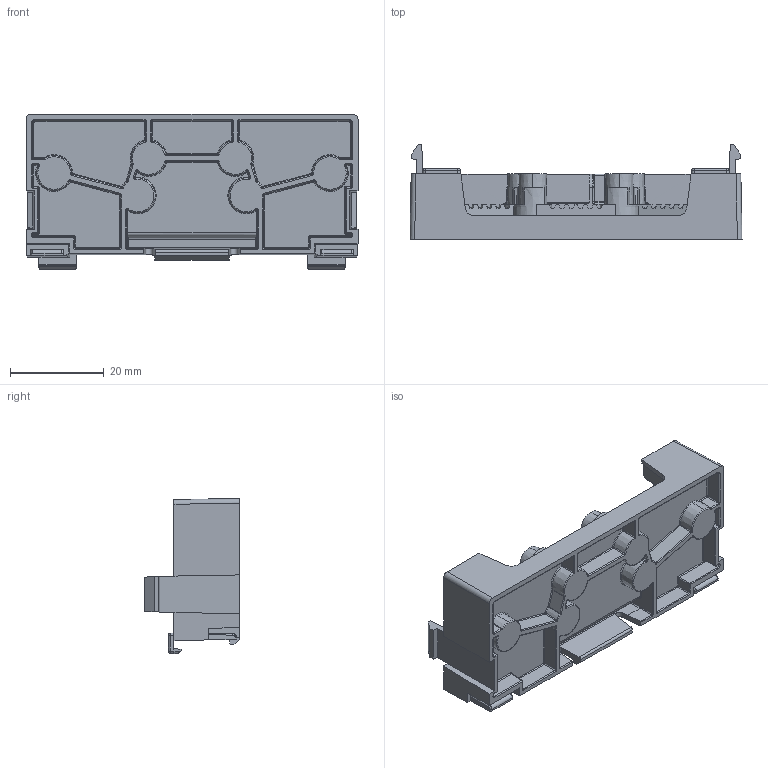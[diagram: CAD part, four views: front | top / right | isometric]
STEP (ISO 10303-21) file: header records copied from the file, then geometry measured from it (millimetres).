
FILE_DESCRIPTION (( 'STEP AP203' ), '1' );
FILE_NAME ('148129c.STEP', '2016-05-06T07:18:20', ( '' ), ( '' ), 'SwSTEP 2.0', 'SolidWorks 2014', '' );
FILE_SCHEMA (( 'CONFIG_CONTROL_DESIGN' ));
Length unit declared in the file: millimetre
Products named in the file (1): 148129c
Bounding box: 71.02 x 20.3 x 33.18 mm (x, y, z)
Volume: 9530.9 mm3; surface area: 12608.5 mm2
Topology: 1 solids, 1 shells, 959 faces, 2367 edges, 1427 vertices
Faces by surface type: plane 387, cylinder 256, bspline 244, cone 72
Entity records: 33308 total; most frequent: CARTESIAN_POINT 12302, ORIENTED_EDGE 4734, DIRECTION 3904, EDGE_CURVE 2367, VERTEX_POINT 1427, LINE 1314, VECTOR 1314, AXIS2_PLACEMENT_3D 1295
